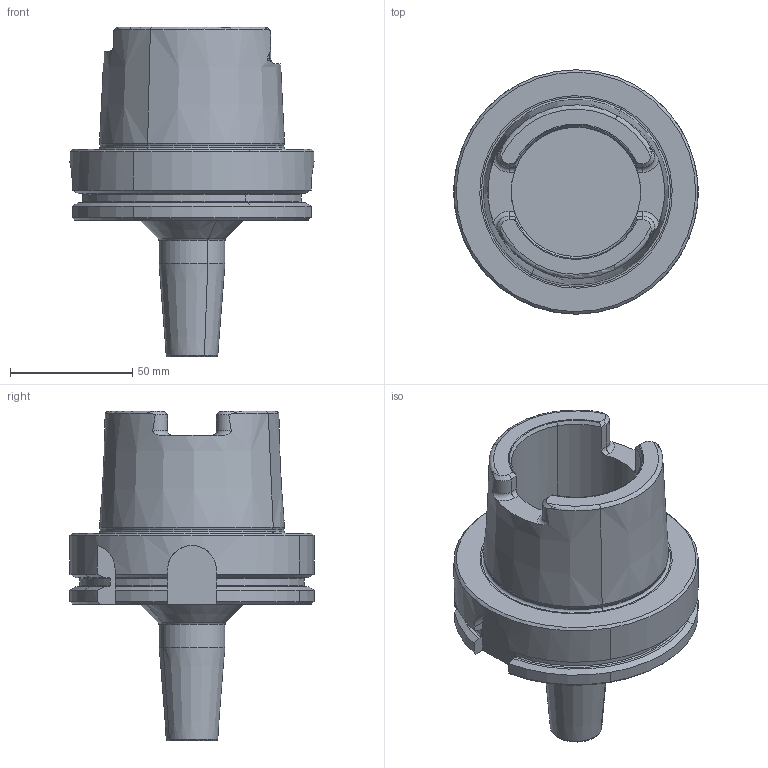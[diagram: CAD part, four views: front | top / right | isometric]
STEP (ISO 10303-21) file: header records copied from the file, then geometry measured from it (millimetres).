
FILE_DESCRIPTION(('CATIA V5 STEP','CAx-IF Rec.Pracs.--- Model Styling and Organization---1.2---2011-12-15'),'2;1');
FILE_NAME('\\nas01\drv1\utils\eitdev\rte\eit\transmagicconvert\db\out\4504209 L.stp','2014-04-02T09:51:28+00:00',('none'),('none'),'CATIA Version 5 Release 21 SP 5 (IN-10)','CATIA V5 STEP AP214','none');
FILE_SCHEMA(('AUTOMOTIVE_DESIGN { 1 0 10303 214 1 1 1 1 }'));
Length unit declared in the file: millimetre
Products named in the file (1): 60977705_0 Holder-Tool HSK A 100 SRKIN 8X 85
Bounding box: 100 x 100 x 135 mm (x, y, z)
Volume: 316365.5 mm3; surface area: 50514.6 mm2
Topology: 1 solids, 1 shells, 139 faces, 354 edges, 220 vertices
Faces by surface type: cone 37, plane 37, cylinder 33, torus 32
Entity records: 4156 total; most frequent: CARTESIAN_POINT 1179, ORIENTED_EDGE 708, DIRECTION 445, EDGE_CURVE 354, AXIS2_PLACEMENT_3D 244, VERTEX_POINT 220, CIRCLE 161, EDGE_LOOP 142
